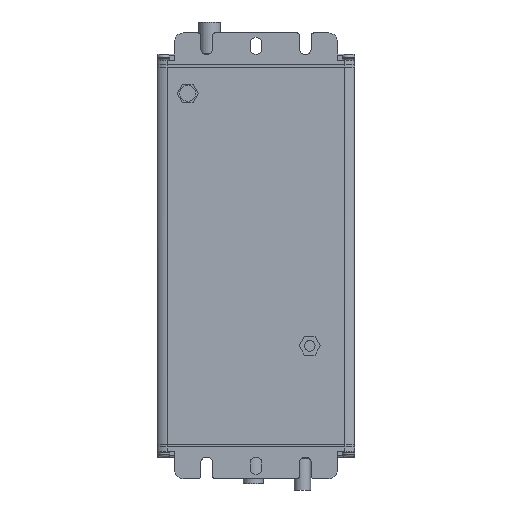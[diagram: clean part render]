
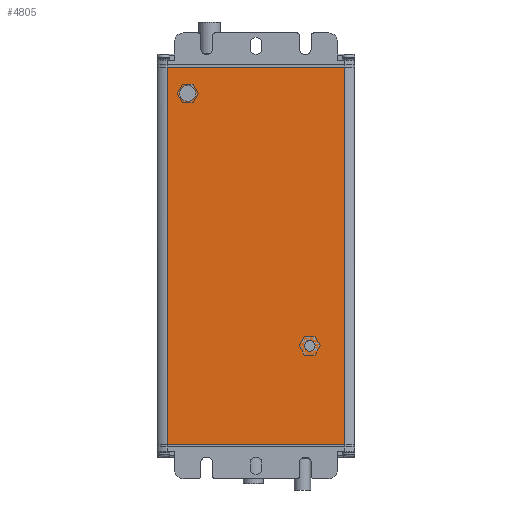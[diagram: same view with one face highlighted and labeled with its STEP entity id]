
A CAD part, front view. The second image highlights one B-rep face of the part: STEP entity #4805.
In plain terms, the highlighted planar face has unit normal (0, -1, 0).
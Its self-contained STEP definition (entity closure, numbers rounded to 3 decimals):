
#1941=CARTESIAN_POINT('',(-30.55,-18.05,-77.5));
#1943=DIRECTION('',(1.,0.,0.));
#1944=VECTOR('',#1943,61.1);
#1945=CARTESIAN_POINT('',(-30.55,-18.05,-77.5));
#1946=LINE('',#1945,#1944);
#2421=CARTESIAN_POINT('',(30.55,-18.05,52.5));
#2423=DIRECTION('',(-1.,0.,0.));
#2424=VECTOR('',#2423,61.1);
#2425=CARTESIAN_POINT('',(30.55,-18.05,52.5));
#2426=LINE('',#2425,#2424);
#2896=DIRECTION('',(0.,0.,1.));
#2897=VECTOR('',#2896,130.);
#2898=CARTESIAN_POINT('',(30.55,-18.05,-77.5));
#2899=LINE('',#2898,#2897);
#2900=CARTESIAN_POINT('',(-23.5,-18.05,43.5));
#2901=DIRECTION('',(0.,-1.,0.));
#2902=DIRECTION('',(1.,0.,0.));
#2903=AXIS2_PLACEMENT_3D('',#2900,#2901,#2902);
#2905=CARTESIAN_POINT('',(-23.5,-18.05,43.5));
#2906=DIRECTION('',(0.,-1.,0.));
#2907=DIRECTION('',(-1.,0.,0.));
#2908=AXIS2_PLACEMENT_3D('',#2905,#2906,#2907);
#2910=CARTESIAN_POINT('',(18.5,-18.05,-43.5));
#2911=DIRECTION('',(0.,-1.,0.));
#2912=DIRECTION('',(0.,0.,-1.));
#2913=AXIS2_PLACEMENT_3D('',#2910,#2911,#2912);
#2915=CARTESIAN_POINT('',(18.5,-18.05,-43.5));
#2916=DIRECTION('',(0.,-1.,0.));
#2917=DIRECTION('',(0.,0.,1.));
#2918=AXIS2_PLACEMENT_3D('',#2915,#2916,#2917);
#2924=DIRECTION('',(0.,0.,-1.));
#2925=VECTOR('',#2924,130.);
#2926=CARTESIAN_POINT('',(-30.55,-18.05,52.5));
#2927=LINE('',#2926,#2925);
#3301=VERTEX_POINT('',#1941);
#3302=CARTESIAN_POINT('',(30.55,-18.05,-77.5));
#3303=VERTEX_POINT('',#3302);
#3515=VERTEX_POINT('',#2421);
#3516=CARTESIAN_POINT('',(-30.55,-18.05,52.5));
#3517=VERTEX_POINT('',#3516);
#3614=CARTESIAN_POINT('',(-20.75,-18.05,43.5));
#3615=CARTESIAN_POINT('',(-26.25,-18.05,43.5));
#3616=VERTEX_POINT('',#3614);
#3617=VERTEX_POINT('',#3615);
#3618=CARTESIAN_POINT('',(18.5,-18.05,-45.331));
#3619=CARTESIAN_POINT('',(18.5,-18.05,-41.669));
#3620=VERTEX_POINT('',#3618);
#3621=VERTEX_POINT('',#3619);
#4781=CARTESIAN_POINT('',(0.25,-18.05,-52.5));
#4782=DIRECTION('',(0.,-1.,0.));
#4783=DIRECTION('',(1.,0.,0.));
#4784=AXIS2_PLACEMENT_3D('',#4781,#4782,#4783);
#4785=PLANE('',#4784);
#4786=ORIENTED_EDGE('',*,*,#3741,.F.);
#4788=ORIENTED_EDGE('',*,*,#4787,.F.);
#4789=ORIENTED_EDGE('',*,*,#4013,.F.);
#4790=ORIENTED_EDGE('',*,*,#4775,.F.);
#4791=EDGE_LOOP('',(#4786,#4788,#4789,#4790));
#4792=FACE_OUTER_BOUND('',#4791,.F.);
#4794=ORIENTED_EDGE('',*,*,#4793,.T.);
#4796=ORIENTED_EDGE('',*,*,#4795,.T.);
#4797=EDGE_LOOP('',(#4794,#4796));
#4798=FACE_BOUND('',#4797,.F.);
#4800=ORIENTED_EDGE('',*,*,#4799,.T.);
#4802=ORIENTED_EDGE('',*,*,#4801,.T.);
#4803=EDGE_LOOP('',(#4800,#4802));
#4804=FACE_BOUND('',#4803,.F.);
#2904=CIRCLE('',#2903,2.75);
#2909=CIRCLE('',#2908,2.75);
#2914=CIRCLE('',#2913,1.831);
#2919=CIRCLE('',#2918,1.831);
#3741=EDGE_CURVE('',#3301,#3303,#1946,.T.);
#4013=EDGE_CURVE('',#3515,#3517,#2426,.T.);
#4775=EDGE_CURVE('',#3303,#3515,#2899,.T.);
#4787=EDGE_CURVE('',#3517,#3301,#2927,.T.);
#4793=EDGE_CURVE('',#3616,#3617,#2904,.T.);
#4795=EDGE_CURVE('',#3617,#3616,#2909,.T.);
#4799=EDGE_CURVE('',#3620,#3621,#2914,.T.);
#4801=EDGE_CURVE('',#3621,#3620,#2919,.T.);
#4805=ADVANCED_FACE('',(#4792,#4798,#4804),#4785,.T.);
